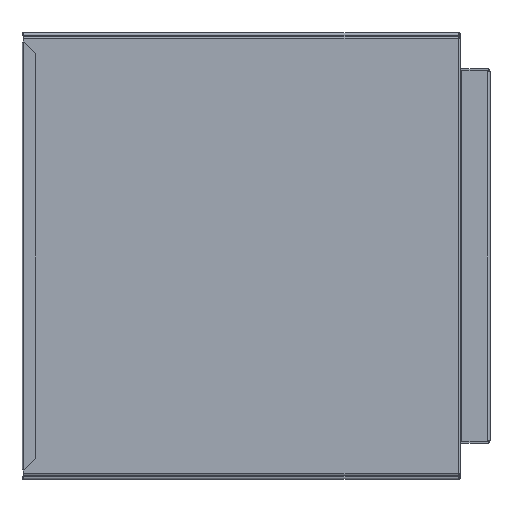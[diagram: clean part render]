
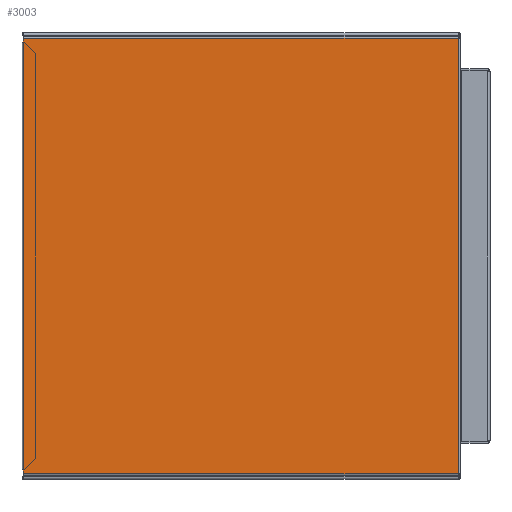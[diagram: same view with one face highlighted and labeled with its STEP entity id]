
A CAD part, left-side view. The second image highlights one B-rep face of the part: STEP entity #3003.
In plain terms, the highlighted planar face has unit normal (-1, 0, 0) as drawn and (0, 0, -1) by its records, which use the part's own axes.
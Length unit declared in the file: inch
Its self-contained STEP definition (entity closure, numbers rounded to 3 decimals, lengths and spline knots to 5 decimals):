
#274=DIRECTION('',(0.,1.,0.));
#275=VECTOR('',#274,12.);
#276=CARTESIAN_POINT('',(-6.0034,0.,-6.1625));
#277=LINE('',#276,#275);
#278=DIRECTION('',(0.,1.,0.));
#279=VECTOR('',#278,12.);
#280=CARTESIAN_POINT('',(6.0034,0.,-6.1625));
#281=LINE('',#280,#279);
#308=DIRECTION('',(1.,0.,0.));
#309=VECTOR('',#308,0.1);
#310=CARTESIAN_POINT('',(5.9034,12.,-6.1625));
#311=LINE('',#310,#309);
#651=DIRECTION('',(1.,0.,0.));
#652=VECTOR('',#651,11.80681);
#653=CARTESIAN_POINT('',(-5.9034,12.,-6.1625));
#654=LINE('',#653,#652);
#744=DIRECTION('',(1.,0.,0.));
#745=VECTOR('',#744,0.1);
#746=CARTESIAN_POINT('',(-6.0034,12.,-6.1625));
#747=LINE('',#746,#745);
#1035=DIRECTION('',(1.,0.,0.));
#1036=VECTOR('',#1035,12.00681);
#1037=CARTESIAN_POINT('',(-6.0034,0.,-6.1625));
#1038=LINE('',#1037,#1036);
#2299=CARTESIAN_POINT('',(-6.0034,0.,-6.1625));
#2300=VERTEX_POINT('',#2299);
#2301=CARTESIAN_POINT('',(6.0034,0.,-6.1625));
#2303=VERTEX_POINT('',#2301);
#2308=CARTESIAN_POINT('',(-6.0034,12.,-6.1625));
#2310=VERTEX_POINT('',#2308);
#2311=CARTESIAN_POINT('',(6.0034,12.,-6.1625));
#2313=VERTEX_POINT('',#2311);
#2411=CARTESIAN_POINT('',(-5.9034,12.,-6.1625));
#2412=VERTEX_POINT('',#2411);
#2413=CARTESIAN_POINT('',(5.9034,12.,-6.1625));
#2414=VERTEX_POINT('',#2413);
#2985=CARTESIAN_POINT('',(-6.0034,0.,-6.1625));
#2986=DIRECTION('',(0.,0.,1.));
#2987=DIRECTION('',(1.,0.,0.));
#2988=AXIS2_PLACEMENT_3D('',#2985,#2986,#2987);
#2989=PLANE('',#2988);
#2991=ORIENTED_EDGE('',*,*,#2990,.T.);
#2993=ORIENTED_EDGE('',*,*,#2992,.F.);
#2995=ORIENTED_EDGE('',*,*,#2994,.F.);
#2997=ORIENTED_EDGE('',*,*,#2996,.F.);
#2998=ORIENTED_EDGE('',*,*,#2978,.F.);
#3000=ORIENTED_EDGE('',*,*,#2999,.T.);
#3001=EDGE_LOOP('',(#2991,#2993,#2995,#2997,#2998,#3000));
#3002=FACE_OUTER_BOUND('',#3001,.F.);
#3003=ADVANCED_FACE('',(#3002),#2989,.F.);
#2978=EDGE_CURVE('',#2300,#2310,#277,.T.);
#2990=EDGE_CURVE('',#2303,#2313,#281,.T.);
#2992=EDGE_CURVE('',#2414,#2313,#311,.T.);
#2994=EDGE_CURVE('',#2412,#2414,#654,.T.);
#2996=EDGE_CURVE('',#2310,#2412,#747,.T.);
#2999=EDGE_CURVE('',#2300,#2303,#1038,.T.);
